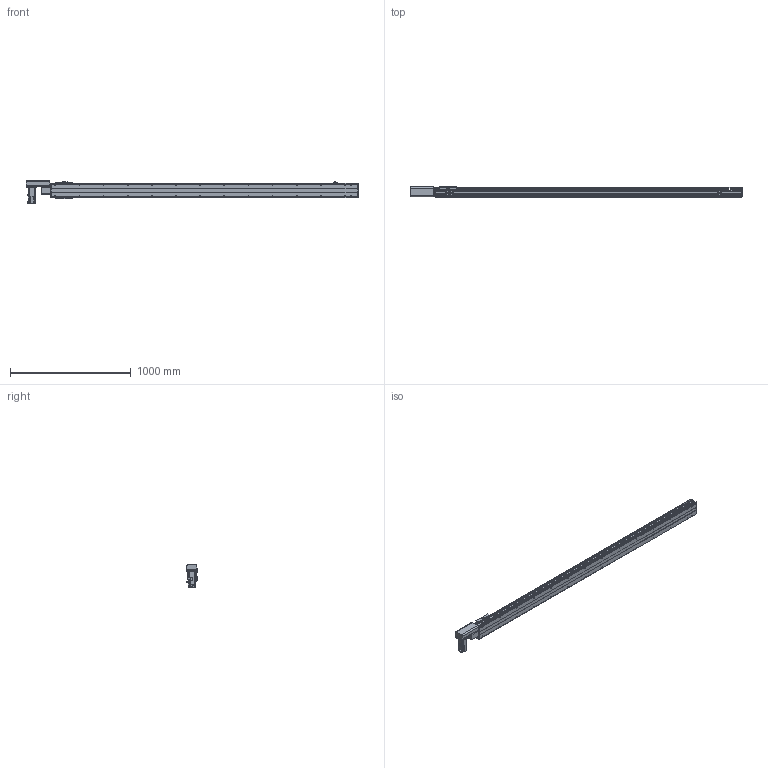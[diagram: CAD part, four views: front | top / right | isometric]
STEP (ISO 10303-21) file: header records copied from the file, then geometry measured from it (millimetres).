
FILE_DESCRIPTION( ( 'STEP AP214' ), '1' );
FILE_NAME( 'x:/temp/worker_27/temp/exporttempdir_6708_25_jwr5x/format_0/PBS120-P40-S2250-R-T40-C1-N(0).stp', '2022-06-06T00:09:54', ( 'License CC BY-ND 4.0' ), ( 'CADENAS' ), ' ', 'PARTsolutions', ' ' );
FILE_SCHEMA( ( 'AUTOMOTIVE_DESIGN { 1 0 10303 214 1 1 1 1 }' ) );
Length unit declared in the file: millimetre
Products named in the file (7): PBS120-P40-S2250-R-T40-C1-N(0); _PBS120-S2250()_body; _PBS120T-R_motors; _T40-p1; _PBS120_sliser; _PBS120_plant; _PBS120_sensor
Assembly tree (8 placements, depth 2):
  PBS120-P40-S2250-R-T40-C1-N(0)
    _PBS120-S2250()_body
    _PBS120T-R_motors
    _T40-p1
    _PBS120_sliser
    _PBS120_plant
    _PBS120_sensor  x3
Bounding box: 2751 x 83 x 189.7 mm (x, y, z)
Volume: 10029774.3 mm3; surface area: 2061607.6 mm2
Topology: 8 solids, 8 shells, 864 faces, 2216 edges, 1423 vertices
Faces by surface type: plane 561, cylinder 241, cone 60, torus 2
Full cylindrical faces by diameter (mm): 2.459 x6, 3.242 x4, 4 x2, 4.134 x4, 4.5 x10, 4.917 x32, 5.5 x11, 6 x2, 6.6 x1, 7 x2, 8.5 x4, 9 x4, 12 x1, 14 x1, 30 x2, 40 x1, 50 x2
Entity records: 28332 total; most frequent: DIRECTION 3884, CARTESIAN_POINT 3785, ORIENTED_EDGE 3574, EDGE_CURVE 1787, AXIS2_PLACEMENT_3D 1328, VERTEX_POINT 1229, LINE 1228, VECTOR 1228
